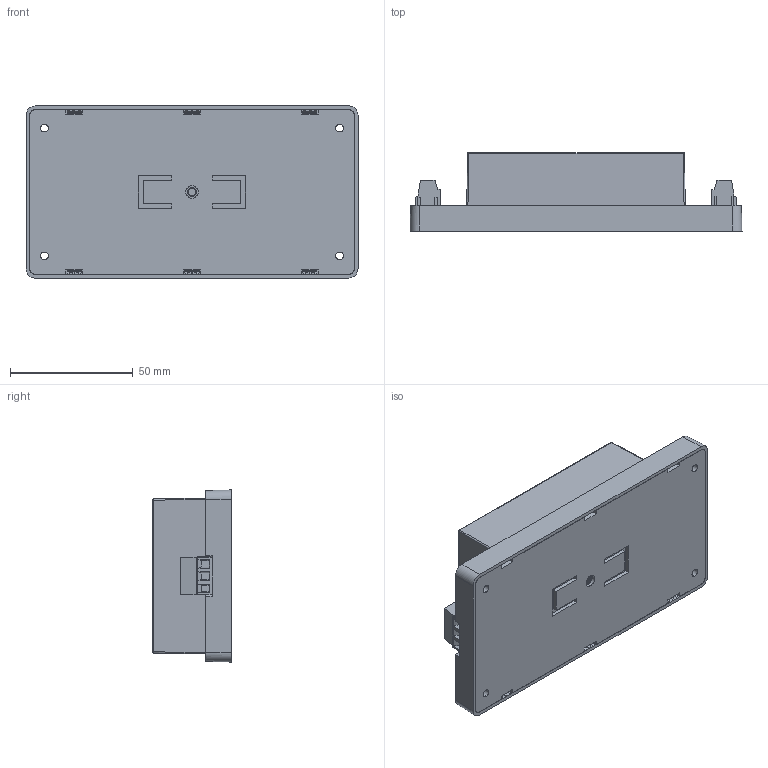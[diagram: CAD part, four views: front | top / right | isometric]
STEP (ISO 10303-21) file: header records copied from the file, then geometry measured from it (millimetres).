
FILE_DESCRIPTION (( 'STEP AP214' ), '1' );
FILE_NAME ('DH30(45)W10-XXST.STEP', '2025-04-11T02:14:11', ( 'cincon' ), ( '' ), 'SwSTEP 2.0', 'SolidWorks 2020', '' );
FILE_SCHEMA (( 'AUTOMOTIVE_DESIGN' ));
Length unit declared in the file: millimetre
Products named in the file (1): DH30(45)W10-XXST
Bounding box: 135 x 32 x 70 mm (x, y, z)
Volume: 64577.6 mm3; surface area: 93634.9 mm2
Topology: 1 solids, 1 shells, 1454 faces, 4110 edges, 2684 vertices
Faces by surface type: plane 1159, cylinder 195, torus 38, cone 36, bspline 22, sphere 4
Entity records: 65144 total; most frequent: CARTESIAN_POINT 11691, ORIENTED_EDGE 8212, DIRECTION 7153, EDGE_CURVE 4106, VECTOR 3363, LINE 3363, VERTEX_POINT 2684, AXIS2_PLACEMENT_3D 1895
